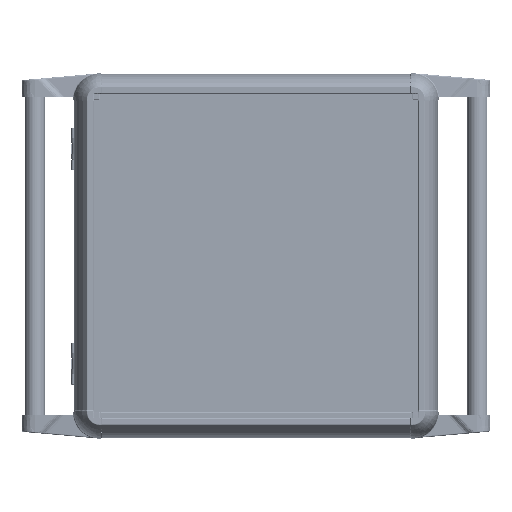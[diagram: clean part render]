
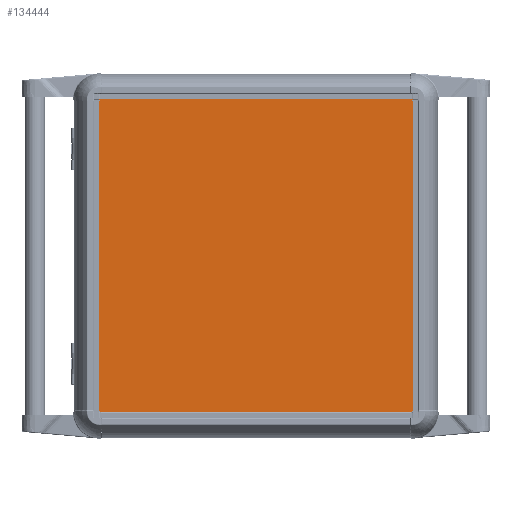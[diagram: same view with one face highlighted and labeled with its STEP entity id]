
A CAD part, top view. The second image highlights one B-rep face of the part: STEP entity #134444.
In plain terms, the highlighted planar face has unit normal (0, 0, 1).
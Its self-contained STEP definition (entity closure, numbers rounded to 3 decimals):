
#5208 = LINE ( 'NONE', #230417, #250217 ) ;
#52956 = ORIENTED_EDGE ( 'NONE', *, *, #62998, .T. ) ;
#62998 = EDGE_CURVE ( 'NONE', #79463, #331585, #111930, .T. ) ;
#73288 = FACE_OUTER_BOUND ( 'NONE', #124531, .T. ) ;
#74944 = PLANE ( 'NONE',  #184730 ) ;
#76393 = CARTESIAN_POINT ( 'NONE',  ( -150., 150., 2. ) ) ;
#79463 = VERTEX_POINT ( 'NONE', #106120 ) ;
#93634 = DIRECTION ( 'NONE',  ( 1., 0., 0. ) ) ;
#97829 = VECTOR ( 'NONE', #305654, 1000. ) ;
#100088 = DIRECTION ( 'NONE',  ( -1., 0., 0. ) ) ;
#106120 = CARTESIAN_POINT ( 'NONE',  ( 150., -150., 2. ) ) ;
#111930 = LINE ( 'NONE', #193289, #298046 ) ;
#124531 = EDGE_LOOP ( 'NONE', ( #52956, #125030, #281865, #218319 ) ) ;
#125030 = ORIENTED_EDGE ( 'NONE', *, *, #145447, .T. ) ;
#129295 = VERTEX_POINT ( 'NONE', #266777 ) ;
#134175 = EDGE_CURVE ( 'NONE', #129295, #79463, #334423, .T. ) ;
#134444 = ADVANCED_FACE ( 'NONE', ( #73288 ), #74944, .T. ) ;
#139846 = EDGE_CURVE ( 'NONE', #183751, #129295, #5208, .T. ) ;
#145447 = EDGE_CURVE ( 'NONE', #331585, #183751, #255979, .T. ) ;
#183751 = VERTEX_POINT ( 'NONE', #279907 ) ;
#184730 = AXIS2_PLACEMENT_3D ( 'NONE', #275012, #203763, #93634 ) ;
#193289 = CARTESIAN_POINT ( 'NONE',  ( 150., 150., 2. ) ) ;
#203763 = DIRECTION ( 'NONE',  ( 0., 0., 1. ) ) ;
#211754 = DIRECTION ( 'NONE',  ( 0., -1., 0. ) ) ;
#215339 = DIRECTION ( 'NONE',  ( 0., 1., 0. ) ) ;
#218319 = ORIENTED_EDGE ( 'NONE', *, *, #134175, .T. ) ;
#230417 = CARTESIAN_POINT ( 'NONE',  ( -150., 150., 2. ) ) ;
#250217 = VECTOR ( 'NONE', #211754, 1000. ) ;
#255979 = LINE ( 'NONE', #76393, #267222 ) ;
#266777 = CARTESIAN_POINT ( 'NONE',  ( -150., -150., 2. ) ) ;
#267222 = VECTOR ( 'NONE', #100088, 1000. ) ;
#272394 = CARTESIAN_POINT ( 'NONE',  ( 150., 150., 2. ) ) ;
#275012 = CARTESIAN_POINT ( 'NONE',  ( 0., 0., 2. ) ) ;
#279907 = CARTESIAN_POINT ( 'NONE',  ( -150., 150., 2. ) ) ;
#280390 = CARTESIAN_POINT ( 'NONE',  ( -150., -150., 2. ) ) ;
#281865 = ORIENTED_EDGE ( 'NONE', *, *, #139846, .T. ) ;
#298046 = VECTOR ( 'NONE', #215339, 1000. ) ;
#305654 = DIRECTION ( 'NONE',  ( 1., 0., 0. ) ) ;
#331585 = VERTEX_POINT ( 'NONE', #272394 ) ;
#334423 = LINE ( 'NONE', #280390, #97829 ) ;
